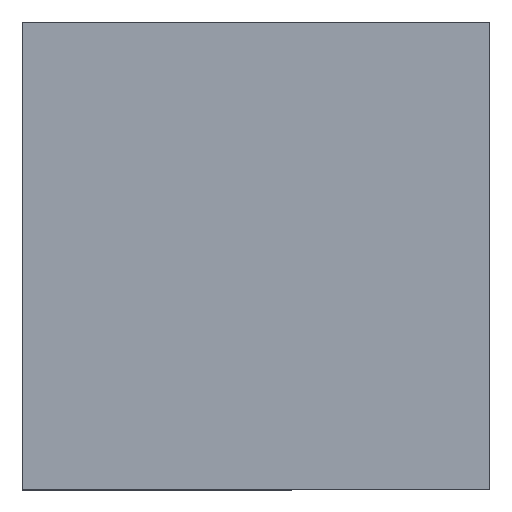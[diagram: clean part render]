
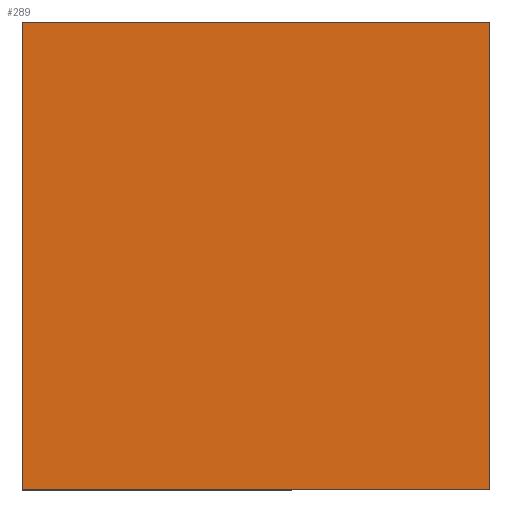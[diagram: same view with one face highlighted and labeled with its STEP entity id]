
A CAD part, top view. The second image highlights one B-rep face of the part: STEP entity #289.
In plain terms, the highlighted planar face has unit normal (0, 0, 1).
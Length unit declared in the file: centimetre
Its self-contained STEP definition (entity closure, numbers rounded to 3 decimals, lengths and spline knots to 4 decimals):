
#2 = CARTESIAN_POINT ( 'NONE',  ( 1000., 1000., 1000. ) ) ;
#57 = LINE ( 'NONE', #298, #78 ) ;
#63 = FACE_OUTER_BOUND ( 'NONE', #90, .T. ) ;
#70 = LINE ( 'NONE', #2, #114 ) ;
#78 = VECTOR ( 'NONE', #403, 100. ) ;
#90 = EDGE_LOOP ( 'NONE', ( #229, #121, #295, #138 ) ) ;
#93 = LINE ( 'NONE', #256, #180 ) ;
#114 = VECTOR ( 'NONE', #347, 100. ) ;
#120 = PLANE ( 'NONE',  #223 ) ;
#121 = ORIENTED_EDGE ( 'NONE', *, *, #362, .T. ) ;
#137 = CARTESIAN_POINT ( 'NONE',  ( 0., 1000., 1000. ) ) ;
#138 = ORIENTED_EDGE ( 'NONE', *, *, #292, .T. ) ;
#162 = DIRECTION ( 'NONE',  ( -1., 0., 0. ) ) ;
#177 = VERTEX_POINT ( 'NONE', #248 ) ;
#180 = VECTOR ( 'NONE', #162, 100. ) ;
#195 = VECTOR ( 'NONE', #258, 100. ) ;
#214 = VERTEX_POINT ( 'NONE', #239 ) ;
#223 = AXIS2_PLACEMENT_3D ( 'NONE', #242, #278, #380 ) ;
#229 = ORIENTED_EDGE ( 'NONE', *, *, #400, .T. ) ;
#239 = CARTESIAN_POINT ( 'NONE',  ( 0., 0., 1000. ) ) ;
#242 = CARTESIAN_POINT ( 'NONE',  ( 0., 0., 1000. ) ) ;
#248 = CARTESIAN_POINT ( 'NONE',  ( 1000., 1000., 1000. ) ) ;
#252 = EDGE_CURVE ( 'NONE', #367, #177, #70, .T. ) ;
#256 = CARTESIAN_POINT ( 'NONE',  ( 0., 1000., 1000. ) ) ;
#258 = DIRECTION ( 'NONE',  ( 0., -1., 0. ) ) ;
#268 = LINE ( 'NONE', #137, #195 ) ;
#269 = VERTEX_POINT ( 'NONE', #342 ) ;
#278 = DIRECTION ( 'NONE',  ( 0., 0., 1. ) ) ;
#289 = ADVANCED_FACE ( 'NONE', ( #63 ), #120, .T. ) ;
#292 = EDGE_CURVE ( 'NONE', #177, #269, #93, .T. ) ;
#295 = ORIENTED_EDGE ( 'NONE', *, *, #252, .T. ) ;
#298 = CARTESIAN_POINT ( 'NONE',  ( 0., 0., 1000. ) ) ;
#342 = CARTESIAN_POINT ( 'NONE',  ( 0., 1000., 1000. ) ) ;
#347 = DIRECTION ( 'NONE',  ( 0., 1., 0. ) ) ;
#362 = EDGE_CURVE ( 'NONE', #214, #367, #57, .T. ) ;
#367 = VERTEX_POINT ( 'NONE', #393 ) ;
#380 = DIRECTION ( 'NONE',  ( 1., 0., 0. ) ) ;
#393 = CARTESIAN_POINT ( 'NONE',  ( 1000., 0., 1000. ) ) ;
#400 = EDGE_CURVE ( 'NONE', #269, #214, #268, .T. ) ;
#403 = DIRECTION ( 'NONE',  ( 1., 0., 0. ) ) ;
